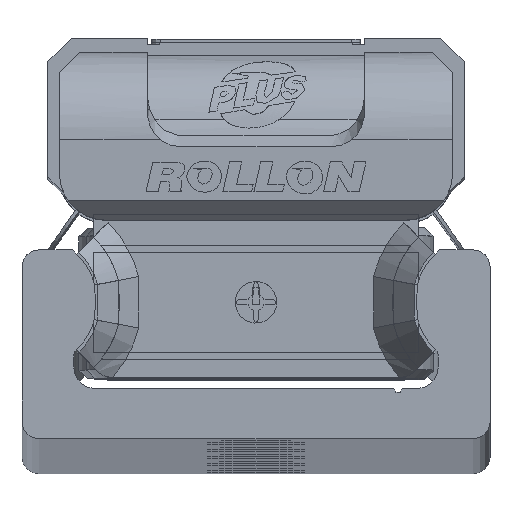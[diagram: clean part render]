
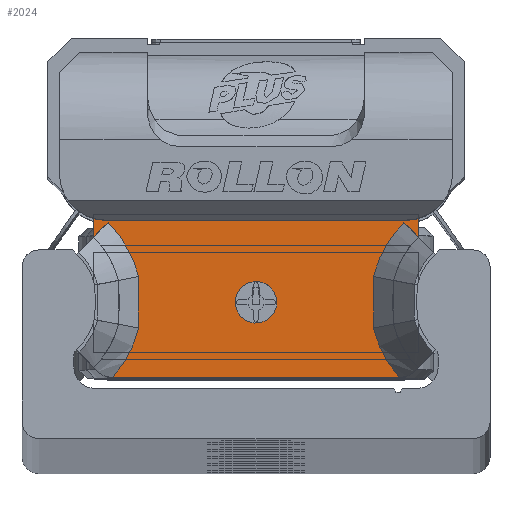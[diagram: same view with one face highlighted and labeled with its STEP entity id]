
A CAD part, top view. The second image highlights one B-rep face of the part: STEP entity #2024.
In plain terms, the highlighted planar face has unit normal (0, 0, 1) as drawn and (0, 0, -1) by its records, which use the part's own axes.
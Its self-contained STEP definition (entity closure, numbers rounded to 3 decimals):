
#2024 = ADVANCED_FACE( '', ( #4220, #4221 ), #4222, .F. );
#4220 = FACE_BOUND( '', #6537, .T. );
#4221 = FACE_OUTER_BOUND( '', #6538, .T. );
#4222 = PLANE( '', #6539 );
#6537 = EDGE_LOOP( '', ( #12012 ) );
#6538 = EDGE_LOOP( '', ( #12013, #12014, #12015, #12016, #12017, #12018, #12019, #12020, #12021, #12022, #12023, #12024, #12025, #12026 ) );
#6539 = AXIS2_PLACEMENT_3D( '', #12027, #12028, #12029 );
#12012 = ORIENTED_EDGE( '', *, *, #14427, .T. );
#12013 = ORIENTED_EDGE( '', *, *, #13231, .F. );
#12014 = ORIENTED_EDGE( '', *, *, #14242, .T. );
#12015 = ORIENTED_EDGE( '', *, *, #12907, .T. );
#12016 = ORIENTED_EDGE( '', *, *, #12949, .T. );
#12017 = ORIENTED_EDGE( '', *, *, #14102, .T. );
#12018 = ORIENTED_EDGE( '', *, *, #12534, .T. );
#12019 = ORIENTED_EDGE( '', *, *, #12673, .T. );
#12020 = ORIENTED_EDGE( '', *, *, #13014, .T. );
#12021 = ORIENTED_EDGE( '', *, *, #13895, .T. );
#12022 = ORIENTED_EDGE( '', *, *, #14314, .T. );
#12023 = ORIENTED_EDGE( '', *, *, #14127, .T. );
#12024 = ORIENTED_EDGE( '', *, *, #12873, .T. );
#12025 = ORIENTED_EDGE( '', *, *, #12996, .T. );
#12026 = ORIENTED_EDGE( '', *, *, #13906, .T. );
#12027 = CARTESIAN_POINT( '', ( 9.7, 4.89, -10.6 ) );
#12028 = DIRECTION( '', ( 0., 0., 1. ) );
#12029 = DIRECTION( '', ( 1., 0., 0. ) );
#12534 = EDGE_CURVE( '', #14876, #14874, #14877, .T. );
#12673 = EDGE_CURVE( '', #14874, #15116, #15117, .T. );
#12873 = EDGE_CURVE( '', #15458, #15456, #15459, .T. );
#12907 = EDGE_CURVE( '', #15508, #15512, #15514, .T. );
#12949 = EDGE_CURVE( '', #15512, #15580, #15582, .T. );
#12996 = EDGE_CURVE( '', #15456, #15654, #15655, .T. );
#13014 = EDGE_CURVE( '', #15116, #15683, #15685, .T. );
#13231 = EDGE_CURVE( '', #16039, #16041, #16042, .T. );
#13895 = EDGE_CURVE( '', #15683, #16382, #17030, .T. );
#13906 = EDGE_CURVE( '', #15654, #16041, #17042, .T. );
#14102 = EDGE_CURVE( '', #15580, #14876, #17302, .T. );
#14127 = EDGE_CURVE( '', #17325, #15458, #17332, .T. );
#14242 = EDGE_CURVE( '', #16039, #15508, #17473, .T. );
#14314 = EDGE_CURVE( '', #16382, #17325, #17566, .T. );
#14427 = EDGE_CURVE( '', #17692, #17692, #17693, .T. );
#14874 = VERTEX_POINT( '', #18334 );
#14876 = VERTEX_POINT( '', #18337 );
#14877 = LINE( '', #18338, #18339 );
#15116 = VERTEX_POINT( '', #18663 );
#15117 = B_SPLINE_CURVE_WITH_KNOTS( '', 2, ( #18664, #18665, #18666, #18667, #18668 ), .UNSPECIFIED., .F., .F., ( 3, 2, 3 ), ( 0., 0.5, 1. ), .UNSPECIFIED. );
#15456 = VERTEX_POINT( '', #19131 );
#15458 = VERTEX_POINT( '', #19134 );
#15459 = B_SPLINE_CURVE_WITH_KNOTS( '', 2, ( #19135, #19136, #19137 ), .UNSPECIFIED., .F., .F., ( 3, 3 ), ( 0., 1. ), .UNSPECIFIED. );
#15508 = VERTEX_POINT( '', #19206 );
#15512 = VERTEX_POINT( '', #19212 );
#15514 = LINE( '', #19215, #19216 );
#15580 = VERTEX_POINT( '', #19292 );
#15582 = CIRCLE( '', #19295, 2.8 );
#15654 = VERTEX_POINT( '', #19390 );
#15655 = B_SPLINE_CURVE_WITH_KNOTS( '', 2, ( #19391, #19392, #19393 ), .UNSPECIFIED., .F., .F., ( 3, 3 ), ( 0., 1. ), .UNSPECIFIED. );
#15683 = VERTEX_POINT( '', #19437 );
#15685 = B_SPLINE_CURVE_WITH_KNOTS( '', 2, ( #19440, #19441, #19442 ), .UNSPECIFIED., .F., .F., ( 3, 3 ), ( 0., 1. ), .UNSPECIFIED. );
#16039 = VERTEX_POINT( '', #19939 );
#16041 = VERTEX_POINT( '', #19942 );
#16042 = LINE( '', #19943, #19944 );
#16382 = VERTEX_POINT( '', #20386 );
#17030 = B_SPLINE_CURVE_WITH_KNOTS( '', 2, ( #21288, #21289, #21290 ), .UNSPECIFIED., .F., .F., ( 3, 3 ), ( 0., 1. ), .UNSPECIFIED. );
#17042 = LINE( '', #21309, #21310 );
#17302 = LINE( '', #21718, #21719 );
#17325 = VERTEX_POINT( '', #21748 );
#17332 = B_SPLINE_CURVE_WITH_KNOTS( '', 2, ( #21767, #21768, #21769 ), .UNSPECIFIED., .F., .F., ( 3, 3 ), ( 0.1, 1. ), .UNSPECIFIED. );
#17473 = CIRCLE( '', #21978, 2.8 );
#17566 = LINE( '', #22115, #22116 );
#17692 = VERTEX_POINT( '', #22313 );
#17693 = CIRCLE( '', #22314, 1.25 );
#18334 = CARTESIAN_POINT( '', ( 8.853, 4.366, -10.6 ) );
#18337 = CARTESIAN_POINT( '', ( 9.7, 3.497, -10.6 ) );
#18338 = CARTESIAN_POINT( '', ( 9.7, 3.501, -10.6 ) );
#18339 = VECTOR( '', #22709, 1000. );
#18663 = CARTESIAN_POINT( '', ( 7.031, 1.144, -10.6 ) );
#18664 = CARTESIAN_POINT( '', ( 8.853, 4.366, -10.6 ) );
#18665 = CARTESIAN_POINT( '', ( 8.182, 3.708, -10.6 ) );
#18666 = CARTESIAN_POINT( '', ( 7.715, 2.883, -10.6 ) );
#18667 = CARTESIAN_POINT( '', ( 7.249, 2.058, -10.6 ) );
#18668 = CARTESIAN_POINT( '', ( 7.031, 1.144, -10.6 ) );
#19131 = CARTESIAN_POINT( '', ( -7.031, 1.144, -10.6 ) );
#19134 = CARTESIAN_POINT( '', ( -7.031, -1.944, -10.6 ) );
#19135 = CARTESIAN_POINT( '', ( -7.031, -1.944, -10.6 ) );
#19136 = CARTESIAN_POINT( '', ( -6.929, -0.4, -10.6 ) );
#19137 = CARTESIAN_POINT( '', ( -7.031, 1.144, -10.6 ) );
#19206 = CARTESIAN_POINT( '', ( -8.95, 4.51, -10.6 ) );
#19212 = CARTESIAN_POINT( '', ( 8.95, 4.51, -10.6 ) );
#19215 = CARTESIAN_POINT( '', ( 9.7, 4.51, -10.6 ) );
#19216 = VECTOR( '', #23168, 1000. );
#19292 = CARTESIAN_POINT( '', ( 9.7, 4.612, -10.6 ) );
#19295 = AXIS2_PLACEMENT_3D( '', #23237, #23238, #23239 );
#19390 = CARTESIAN_POINT( '', ( -8.853, 4.366, -10.6 ) );
#19391 = CARTESIAN_POINT( '', ( -7.031, 1.144, -10.6 ) );
#19392 = CARTESIAN_POINT( '', ( -7.477, 3.018, -10.6 ) );
#19393 = CARTESIAN_POINT( '', ( -8.853, 4.366, -10.6 ) );
#19437 = CARTESIAN_POINT( '', ( 7.031, -1.944, -10.6 ) );
#19440 = CARTESIAN_POINT( '', ( 7.031, 1.144, -10.6 ) );
#19441 = CARTESIAN_POINT( '', ( 6.929, -0.4, -10.6 ) );
#19442 = CARTESIAN_POINT( '', ( 7.031, -1.944, -10.6 ) );
#19939 = CARTESIAN_POINT( '', ( -9.7, 4.612, -10.6 ) );
#19942 = CARTESIAN_POINT( '', ( -9.7, 3.494, -10.6 ) );
#19943 = CARTESIAN_POINT( '', ( -9.7, 4.89, -10.6 ) );
#19944 = VECTOR( '', #23660, 1000. );
#20386 = CARTESIAN_POINT( '', ( 8.59, -4.893, -10.6 ) );
#21288 = CARTESIAN_POINT( '', ( 7.031, -1.944, -10.6 ) );
#21289 = CARTESIAN_POINT( '', ( 7.429, -3.615, -10.6 ) );
#21290 = CARTESIAN_POINT( '', ( 8.588, -4.89, -10.6 ) );
#21309 = CARTESIAN_POINT( '', ( -8.853, 4.366, -10.6 ) );
#21310 = VECTOR( '', #24570, 1000. );
#21718 = CARTESIAN_POINT( '', ( 9.7, 4.89, -10.6 ) );
#21719 = VECTOR( '', #24787, 1000. );
#21748 = CARTESIAN_POINT( '', ( -8.59, -4.893, -10.6 ) );
#21767 = CARTESIAN_POINT( '', ( -8.587, -4.89, -10.6 ) );
#21768 = CARTESIAN_POINT( '', ( -7.432, -3.63, -10.6 ) );
#21769 = CARTESIAN_POINT( '', ( -7.031, -1.944, -10.6 ) );
#21978 = AXIS2_PLACEMENT_3D( '', #24905, #24906, #24907 );
#22115 = CARTESIAN_POINT( '', ( 9.7, -4.89, -10.6 ) );
#22116 = VECTOR( '', #24985, 1000. );
#22313 = CARTESIAN_POINT( '', ( 1.25, -0.39, -10.6 ) );
#22314 = AXIS2_PLACEMENT_3D( '', #25097, #25098, #25099 );
#22709 = DIRECTION( '', ( -0.7, 0.714, 0. ) );
#23168 = DIRECTION( '', ( 1., 0., 0. ) );
#23237 = CARTESIAN_POINT( '', ( 8.95, 7.31, -10.6 ) );
#23238 = DIRECTION( '', ( 0., 0., 1. ) );
#23239 = DIRECTION( '', ( 1., 0., 0. ) );
#23660 = DIRECTION( '', ( 0., -1., 0. ) );
#24570 = DIRECTION( '', ( -0.7, -0.714, 0. ) );
#24787 = DIRECTION( '', ( 0., -1., 0. ) );
#24905 = CARTESIAN_POINT( '', ( -8.95, 7.31, -10.6 ) );
#24906 = DIRECTION( '', ( 0., 0., 1. ) );
#24907 = DIRECTION( '', ( 1., 0., 0. ) );
#24985 = DIRECTION( '', ( -1., 0., 0. ) );
#25097 = CARTESIAN_POINT( '', ( 0., -0.39, -10.6 ) );
#25098 = DIRECTION( '', ( 0., 0., 1. ) );
#25099 = DIRECTION( '', ( 1., 0., 0. ) );
